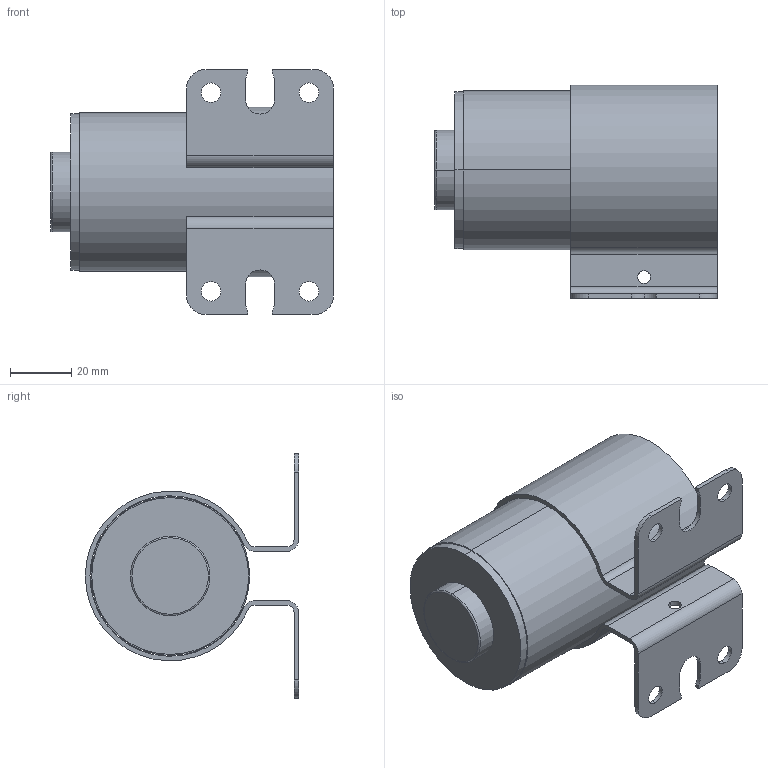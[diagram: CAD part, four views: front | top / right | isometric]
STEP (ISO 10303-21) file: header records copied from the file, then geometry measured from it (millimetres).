
FILE_DESCRIPTION (( 'STEP AP214' ), '1' );
FILE_NAME ('VIAIR 95C_12_27.step', '2025-12-23T15:53:25', ( '' ), ( '' ), 'SwSTEP 2.0', 'SolidWorks 2026', '' );
FILE_SCHEMA (( 'AUTOMOTIVE_DESIGN' ));
Length unit declared in the file: millimetre
Products named in the file (1): VIAIR 95C_12_27
Bounding box: 92.5 x 69.75 x 80 mm (x, y, z)
Volume: 16764 mm3; surface area: 61031.3 mm2
Topology: 2 solids, 3 shells, 79 faces, 203 edges, 134 vertices
Faces by surface type: cylinder 45, plane 30, torus 4
Entity records: 2542 total; most frequent: CARTESIAN_POINT 552, DIRECTION 416, ORIENTED_EDGE 406, EDGE_CURVE 203, AXIS2_PLACEMENT_3D 178, VERTEX_POINT 134, CIRCLE 98, EDGE_LOOP 95
